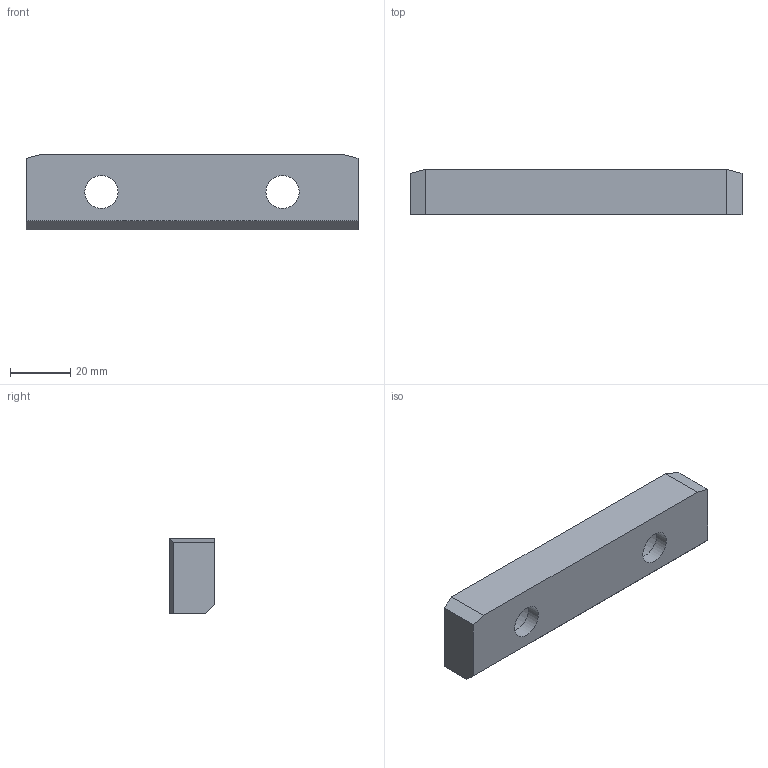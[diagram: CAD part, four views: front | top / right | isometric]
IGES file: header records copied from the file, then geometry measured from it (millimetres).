
Start section: Data from Parasolid IGES Translator 20.0.26, Copyright(c) 2006 Siemens P LM Software. All Rights Reserved.
Global section: file name: G224-12-015-110.igs; native system: By Siemens PLM Incorporated; preprocessor: XPlus GENERIC/IGES 20.0.26; author: Noname; organization: Noname; date: 20190709.085128; units: millimetre
Bounding box: 110 x 15 x 25 mm (x, y, z)
Surface area: 10349.3 mm2 (no closed solid volume)
Topology: 0 solids, 0 shells, 17 faces, 74 edges, 66 vertices
Faces by surface type: extrusion 13, revolution 4
